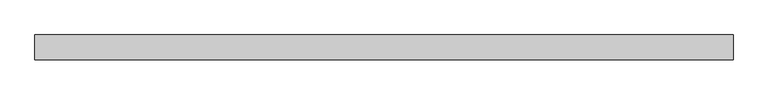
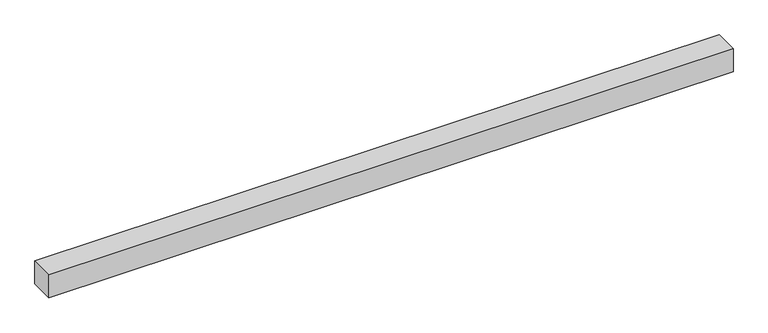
"""IFC4 building model written with IfcOpenShell, lengths in millimetres: proxy geometry."""

from ifc_helpers import new_model, si_unit, frame, origin, place, context, project, spatial, polyline, outline, extrude, source, transform, mapped, element, save


def generic_models_4189963a(model_context):
    return source(origin(), model_context, "Body", "SweptSolid", [
        extrude(outline(polyline([(0.0, 100.0), (5625.4850099, 100.0), (5625.4850099, -100.0), (0.0, -100.0), (0.0, 100.0)])), frame((0.0, 0.0, 1700.0), z_axis=(0.0, 0.0, 1.0), x_axis=(1.0, 0.0, 0.0)), (0.0, 0.0, 1.0), 200.0),
    ])


if __name__ == "__main__":
    model = new_model("IFC4")
    model_context = context("Model", 3, world=origin())
    ifc_project = project(units=[si_unit("LENGTHUNIT", "METRE", prefix="MILLI")], contexts=[model_context])
    site = spatial("IfcSite", under=ifc_project)
    building = spatial("IfcBuilding", under=site)
    placement = place(None, origin())
    generic_models_shape = generic_models_4189963a(model_context)
    element("IfcBuildingElementProxy", 1, Name="Generic Models", at=placement, inside=building, context=model_context, shape_type="MappedRepresentation", body=[
        mapped(generic_models_shape, transform((0.0, 0.0, 0.0), x_axis=(1.0, 0.0, 0.0), y_axis=(0.0, 1.0, 0.0), z_axis=(0.0, 0.0, 1.0))),
    ])
    save(model, "model.ifc")
